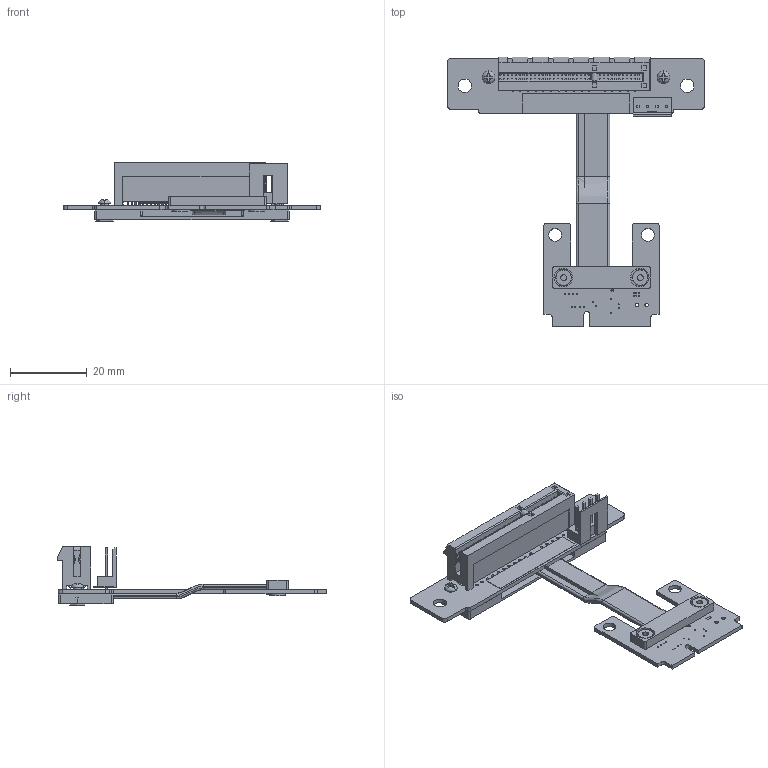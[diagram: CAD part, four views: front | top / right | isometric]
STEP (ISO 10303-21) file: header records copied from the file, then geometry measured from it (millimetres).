
FILE_DESCRIPTION(('Open CASCADE Model'),'2;1');
FILE_NAME('Open CASCADE Shape Model','2022-01-26T19:20:28',('Author'),( 'Open CASCADE'),'Open CASCADE STEP processor 6.8','Open CASCADE 6.8' ,'Unknown');
FILE_SCHEMA(('AUTOMOTIVE_DESIGN { 1 0 10303 214 1 1 1 1 }'));
Length unit declared in the file: millimetre
Products named in the file (41): PCB; Board; Open CASCADE STEP translator 6.8 1.1.1; Open CASCADE STEP translator 6.8 1.2; PCIe_x4____Lotes; Free-Models; G0033_RGB9411503; Hexagon_nut_ISO_4032_(DIN_934)_-_M2_RGB9411503; Tape28x5_RGB0; RP22R-PAD; c-171825-4-y-3d_RGB12967653; Tape14x5_RGB0; RP11S-PAD; G0030_RGB14277081; cable13pin-43q_RGB4078660
Assembly tree (45 placements, depth 3):
  PCB
    Board
      Open CASCADE STEP translator 6.8 1.1.1
    Open CASCADE STEP translator 6.8 1.2
      PCIe_x4____Lotes
    Free-Models
      G0033_RGB9411503  x2
      Hexagon_nut_ISO_4032_(DIN_934)_-_M2_RGB9411503  x4
      Tape28x5_RGB0
      RP22R-PAD
      c-171825-4-y-3d_RGB12967653
      Tape14x5_RGB0
      RP11S-PAD
      G0030_RGB14277081  x2
      cable13pin-43q_RGB4078660
      cable13pin-43q_RGB4078660
      cable13pin-43q_RGB4078660
      cable13pin-43q_RGB4078660
      cable13pin-43q_RGB4078660
      cable13pin-43q_RGB4078660
      cable13pin-43q_RGB4078660
      cable13pin-43q_RGB4078660
      cable13pin-43q_RGB4078660
      cable13pin-43q_RGB4078660
      cable13pin-43q_RGB4078660
      cable13pin-43q_RGB4078660
      cable13pin-43q_RGB4078660
      cable13pin-43q_RGB4078660
      cable13pin-43q_RGB4078660
      cable13pin-43q_RGB4078660
      cable13pin-43q_RGB4078660
      cable13pin-43q_RGB4078660
      cable13pin-43q_RGB4078660
      cable13pin-43q_RGB4078660
      cable13pin-43q_RGB4078660
      cable13pin-43q_RGB4078660
      cable13pin-43q_RGB4078660
      cable13pin-43q_RGB4078660
      cable13pin-43q_RGB4078660
      cable13pin-43q_RGB4078660
      cable13pin-43q_RGB4078660
Bounding box: 67.05 x 70.23 x 15.32 mm (x, y, z)
Volume: 6222.4 mm3; surface area: 12414.5 mm2
Topology: 42 solids, 42 shells, 3693 faces, 9047 edges, 5596 vertices
Faces by surface type: plane 1939, cylinder 1252, bspline 424, cone 48, torus 26, revolution 4
Full cylindrical faces by diameter (mm): 0.254 x28, 0.4 x65, 0.6 x60, 0.7 x64, 0.9 x2, 1.2 x4, 1.6 x64, 2 x4, 2.2 x8, 2.35 x2, 2.4 x2, 3.3 x2, 3.5 x2, 4.8 x4
Entity records: 117945 total; most frequent: CARTESIAN_POINT 29426, ORIENTED_EDGE 17494, DIRECTION 15321, EDGE_CURVE 8747, LINE 5865, VECTOR 5865, VERTEX_POINT 5409, AXIS2_PLACEMENT_3D 4727
